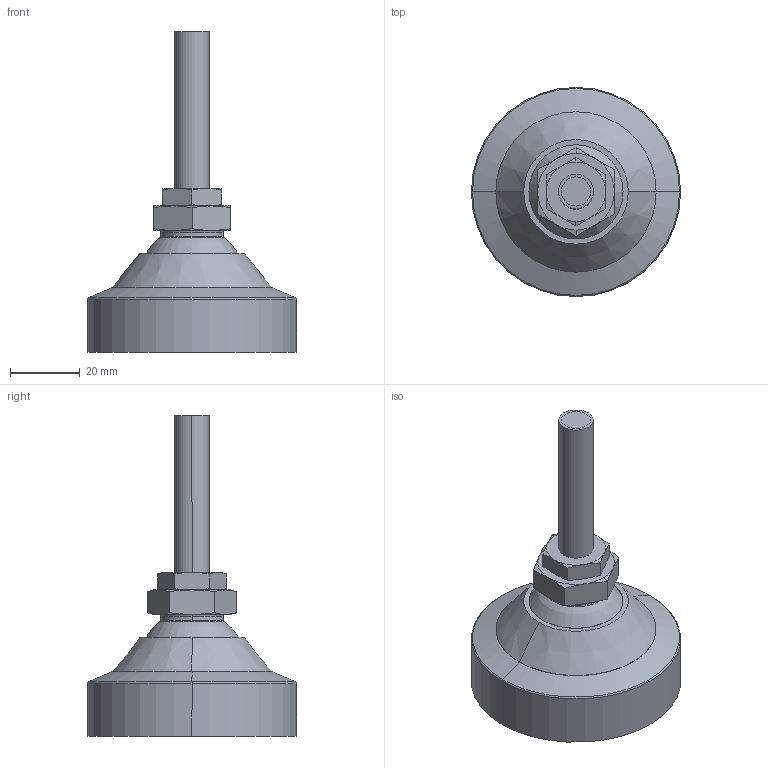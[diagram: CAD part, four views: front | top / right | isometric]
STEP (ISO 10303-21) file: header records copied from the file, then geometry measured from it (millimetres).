
FILE_DESCRIPTION((''),'1');
FILE_NAME('LALAH_M10_stainless.step','2020-05-13T09:23:54',(''),(''),'','','');
FILE_SCHEMA(('AUTOMOTIVE_DESIGN { 1 0 10303 214 1 1 1 1 }'));
Length unit declared in the file: metre
Products named in the file (4): LALAH M10_stainless; LALAH nut 01; LALAH part 02; LALAH base 01
Assembly tree (3 placements, depth 2):
  LALAH M10_stainless
    LALAH nut 01
    LALAH part 02
    LALAH base 01
Bounding box: 60 x 60 x 92 mm (x, y, z)
Volume: 71015.7 mm3; surface area: 22470.5 mm2
Topology: 3 solids, 4 shells, 92 faces, 193 edges, 112 vertices
Faces by surface type: cone 42, plane 23, cylinder 20, torus 4, bspline 2, revolution 1
Entity records: 4656 total; most frequent: CARTESIAN_POINT 2682, DIRECTION 409, ORIENTED_EDGE 382, EDGE_CURVE 193, AXIS2_PLACEMENT_3D 179, VERTEX_POINT 112, EDGE_LOOP 99, ADVANCED_FACE 89
